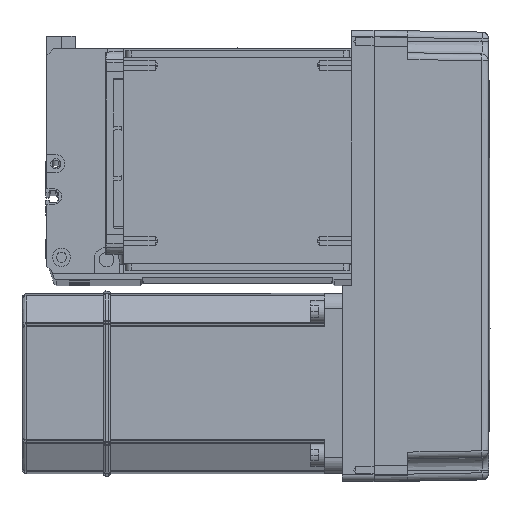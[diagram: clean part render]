
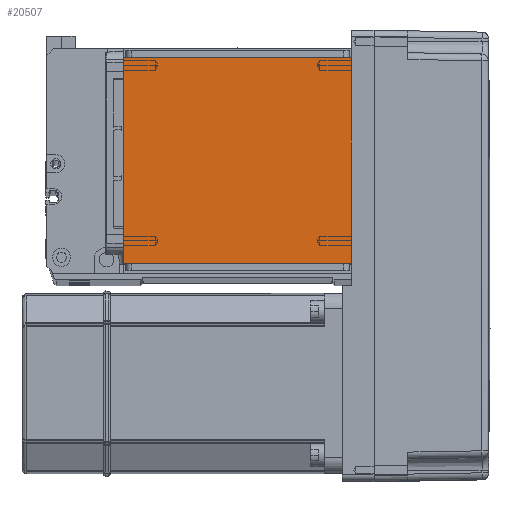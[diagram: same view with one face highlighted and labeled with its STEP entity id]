
A CAD part, top view. The second image highlights one B-rep face of the part: STEP entity #20507.
In plain terms, the highlighted planar face has unit normal (0, 0, 1).
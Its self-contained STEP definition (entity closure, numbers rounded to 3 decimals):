
#1997 = CARTESIAN_POINT ( 'NONE',  ( -70.004, 20., 115. ) ) ;
#3625 = VERTEX_POINT ( 'NONE', #5121 ) ;
#4385 = VERTEX_POINT ( 'NONE', #33548 ) ;
#5121 = CARTESIAN_POINT ( 'NONE',  ( 50.5, 20., 115. ) ) ;
#6166 = PLANE ( 'NONE',  #50135 ) ;
#6360 = DIRECTION ( 'NONE',  ( 1., 0., 0. ) ) ;
#6988 = VERTEX_POINT ( 'NONE', #37061 ) ;
#7448 = ORIENTED_EDGE ( 'NONE', *, *, #23334, .T. ) ;
#7517 = LINE ( 'NONE', #49315, #42752 ) ;
#7761 = ORIENTED_EDGE ( 'NONE', *, *, #17214, .F. ) ;
#15865 = EDGE_LOOP ( 'NONE', ( #27190, #38688, #7761, #7448 ) ) ;
#16188 = CARTESIAN_POINT ( 'NONE',  ( 50.5, 122., 115. ) ) ;
#17214 = EDGE_CURVE ( 'NONE', #3625, #54630, #28881, .T. ) ;
#18967 = CARTESIAN_POINT ( 'NONE',  ( -50.5, 20., 115. ) ) ;
#20507 = ADVANCED_FACE ( 'NONE', ( #52747 ), #6166, .T. ) ;
#21756 = DIRECTION ( 'NONE',  ( 0., -1., 0. ) ) ;
#23150 = VECTOR ( 'NONE', #24720, 1000. ) ;
#23334 = EDGE_CURVE ( 'NONE', #3625, #6988, #57421, .T. ) ;
#24720 = DIRECTION ( 'NONE',  ( -1., 0., 0. ) ) ;
#27190 = ORIENTED_EDGE ( 'NONE', *, *, #31100, .F. ) ;
#28881 = LINE ( 'NONE', #1997, #23150 ) ;
#28899 = EDGE_CURVE ( 'NONE', #4385, #54630, #7517, .T. ) ;
#29418 = DIRECTION ( 'NONE',  ( 0., 0., 1. ) ) ;
#31100 = EDGE_CURVE ( 'NONE', #4385, #6988, #35278, .T. ) ;
#33548 = CARTESIAN_POINT ( 'NONE',  ( -50.5, 111.5, 115. ) ) ;
#35278 = LINE ( 'NONE', #57526, #49677 ) ;
#37061 = CARTESIAN_POINT ( 'NONE',  ( 50.5, 111.5, 115. ) ) ;
#38688 = ORIENTED_EDGE ( 'NONE', *, *, #28899, .T. ) ;
#42752 = VECTOR ( 'NONE', #21756, 1000. ) ;
#43065 = DIRECTION ( 'NONE',  ( 1., 0., 0. ) ) ;
#44492 = VECTOR ( 'NONE', #53009, 1000. ) ;
#49315 = CARTESIAN_POINT ( 'NONE',  ( -50.5, 122., 115. ) ) ;
#49677 = VECTOR ( 'NONE', #43065, 1000. ) ;
#50135 = AXIS2_PLACEMENT_3D ( 'NONE', #56617, #29418, #6360 ) ;
#52747 = FACE_OUTER_BOUND ( 'NONE', #15865, .T. ) ;
#53009 = DIRECTION ( 'NONE',  ( 0., 1., 0. ) ) ;
#54630 = VERTEX_POINT ( 'NONE', #18967 ) ;
#56617 = CARTESIAN_POINT ( 'NONE',  ( 0., 0., 115. ) ) ;
#57421 = LINE ( 'NONE', #16188, #44492 ) ;
#57526 = CARTESIAN_POINT ( 'NONE',  ( -70.004, 111.5, 115. ) ) ;
